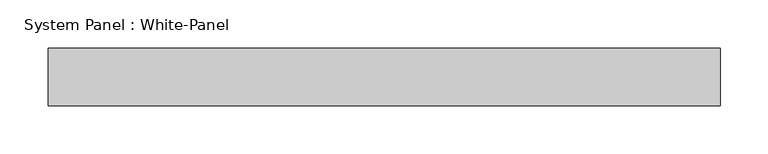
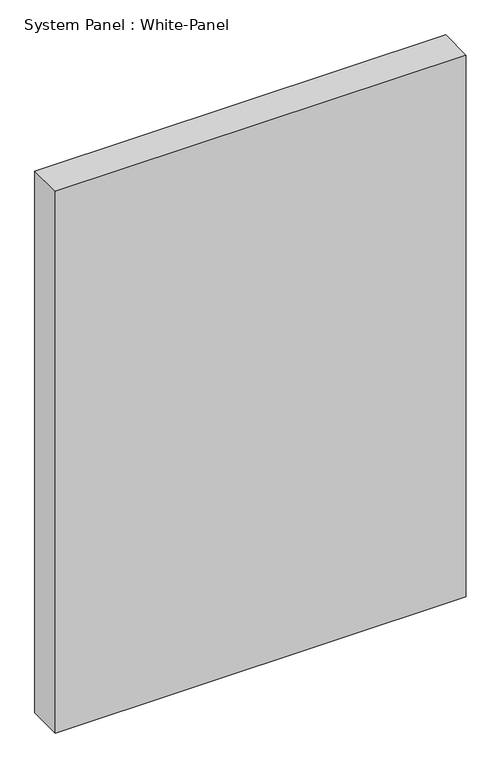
"""IFC4 building model written with IfcOpenShell, lengths in millimetres: plate geometry, System Panel : White-Panel."""

from ifc_helpers import new_model, si_unit, origin, origin_with_axes, place, context, project, spatial, polyline, outline, extrude, source, transform, mapped, element, save


def system_panel_white_panel_6c6c8c82(model_context):
    return source(origin(), model_context, "Body", "SweptSolid", [
        extrude(outline(polyline([(350.0, -10.5), (-350.0, -10.5), (-350.0, 49.5), (350.0, 49.5), (350.0, -10.5)])), origin_with_axes(), (0.0, 0.0, 1.0), 975.0),
    ])


if __name__ == "__main__":
    model = new_model("IFC4")
    model_context = context("Model", 3, world=origin())
    ifc_project = project(units=[si_unit("LENGTHUNIT", "METRE", prefix="MILLI")], contexts=[model_context])
    site = spatial("IfcSite", under=ifc_project)
    building = spatial("IfcBuilding", under=site)
    placement = place(None, origin())
    system_panel_white_panel_shape = system_panel_white_panel_6c6c8c82(model_context)
    element("IfcPlate", 1, ObjectType="System Panel : White-Panel", at=placement, inside=building, context=model_context, shape_type="MappedRepresentation", body=[
        mapped(system_panel_white_panel_shape, transform((0.0, 0.0, 0.0), x_axis=(1.0, 0.0, 0.0), y_axis=(0.0, 1.0, 0.0), z_axis=(0.0, 0.0, 1.0))),
    ])
    save(model, "model.ifc")
